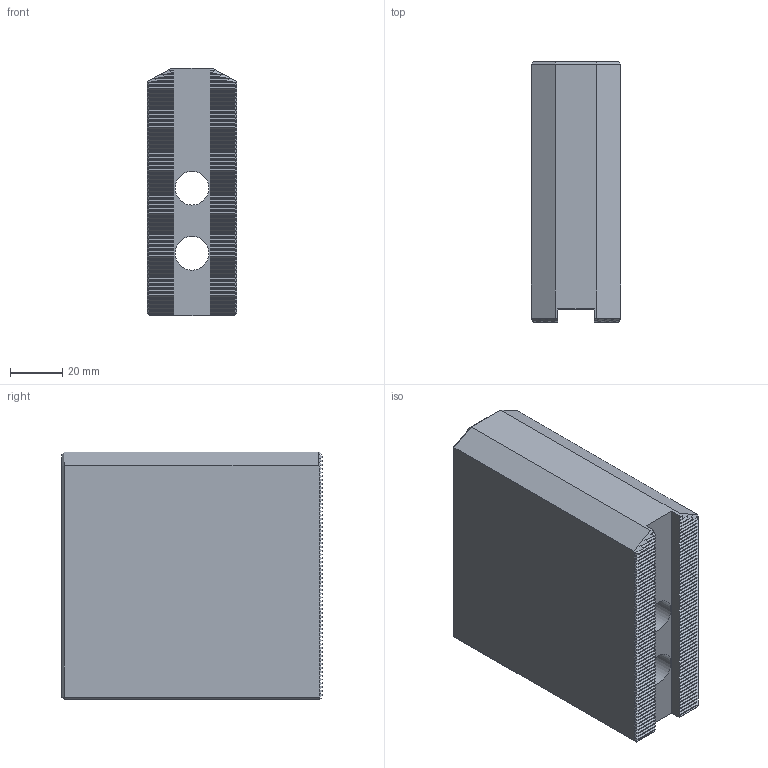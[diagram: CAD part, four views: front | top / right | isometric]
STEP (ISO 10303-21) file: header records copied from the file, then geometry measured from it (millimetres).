
FILE_DESCRIPTION(/* description */ (''),/* implementation_level */ '2;1');
FILE_NAME(/* name */ 'SC-08H100.stp',/* time_stamp */ '2024-09-11T15:46:59+03:00',/* author */ ('KanaanMD'),/* organization */ (''),/* preprocessor_version */ 'ST-DEVELOPER v19.2',/* originating_system */ 'Autodesk Inventor 2024',/* authorisation */ '');
FILE_SCHEMA (('AUTOMOTIVE_DESIGN { 1 0 10303 214 3 1 1 }'));
Length unit declared in the file: millimetre
Products named in the file (1): SC-08H100
Bounding box: 34.5 x 100 x 95 mm (x, y, z)
Volume: 264583.3 mm3; surface area: 43654.9 mm2
Topology: 1 solids, 1 shells, 528 faces, 1322 edges, 798 vertices
Faces by surface type: plane 522, cylinder 4, cone 2
Full cylindrical faces by diameter (mm): 13 x2, 19 x2
Entity records: 15149 total; most frequent: CARTESIAN_POINT 2649, ORIENTED_EDGE 2644, DIRECTION 2392, EDGE_CURVE 1322, LINE 1310, VECTOR 1310, VERTEX_POINT 798, AXIS2_PLACEMENT_3D 541
